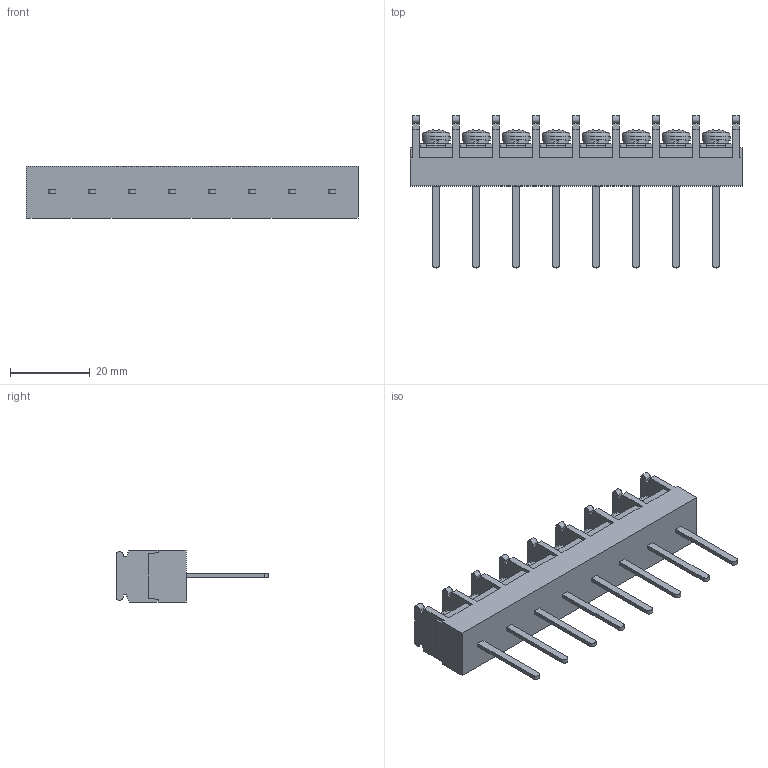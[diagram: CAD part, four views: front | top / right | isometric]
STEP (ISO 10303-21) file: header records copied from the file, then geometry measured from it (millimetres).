
FILE_DESCRIPTION(/* description */ ('Alibre Inc.'),/* implementation_level */ '2;1');
FILE_NAME(/* name */ 'export0',/* time_stamp */ '2015-10-17T19:26:52+09:00',/* author */ (''),/* organization */ (''),/* preprocessor_version */ 'ST-DEVELOPER v14',/* originating_system */ 'Alibre',/* authorisation */ '');
FILE_SCHEMA (('CONFIG_CONTROL_DESIGN'));
Length unit declared in the file: centimetre
Products named in the file (1): ID_1
Bounding box: 83 x 38 x 13 mm (x, y, z)
Volume: 12995.8 mm3; surface area: 8152.7 mm2
Topology: 1 solids, 17 shells, 908 faces, 2466 edges, 1636 vertices
Faces by surface type: plane 682, bspline 104, cylinder 66, cone 32, torus 16, sphere 8
Full cylindrical faces by diameter (mm): 4 x8, 6.5 x8, 7 x8
Entity records: 27689 total; most frequent: CARTESIAN_POINT 6127, ORIENTED_EDGE 4820, DIRECTION 3434, EDGE_CURVE 2410, VECTOR 1782, LINE 1782, VERTEX_POINT 1612, AXIS2_PLACEMENT_3D 1165
